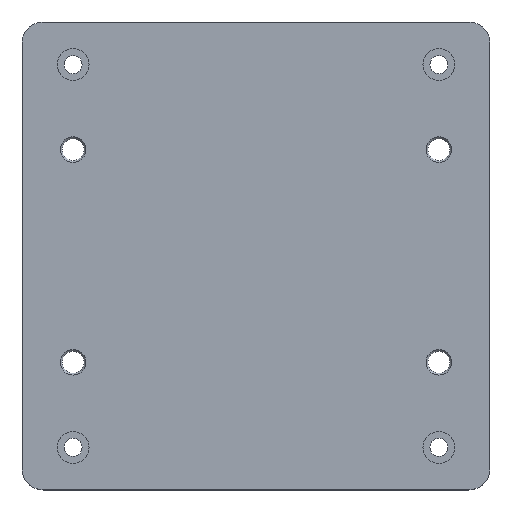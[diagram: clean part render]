
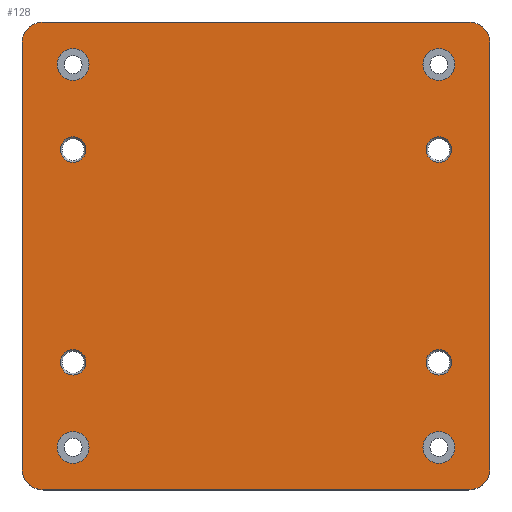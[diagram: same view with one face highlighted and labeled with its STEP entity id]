
A CAD part, top view. The second image highlights one B-rep face of the part: STEP entity #128.
In plain terms, the highlighted planar face has unit normal (0, 0, 1).
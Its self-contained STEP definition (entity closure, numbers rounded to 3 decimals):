
#128=ADVANCED_FACE('',(#204,#205,#206,#207,#208,#209,#210,#211,#212),#162,
 .T.);
#162=PLANE('',#613);
#172=LINE('',#858,#188);
#173=LINE('',#863,#189);
#174=LINE('',#867,#190);
#175=LINE('',#871,#191);
#188=VECTOR('',#693,1.);
#189=VECTOR('',#696,1.);
#190=VECTOR('',#699,1.);
#191=VECTOR('',#702,1.);
#204=FACE_BOUND('',#270,.T.);
#205=FACE_BOUND('',#271,.T.);
#206=FACE_BOUND('',#272,.T.);
#207=FACE_BOUND('',#273,.T.);
#208=FACE_BOUND('',#274,.T.);
#209=FACE_BOUND('',#275,.T.);
#210=FACE_BOUND('',#276,.T.);
#211=FACE_BOUND('',#277,.T.);
#212=FACE_BOUND('',#278,.T.);
#270=EDGE_LOOP('',(#344));
#271=EDGE_LOOP('',(#345));
#272=EDGE_LOOP('',(#346));
#273=EDGE_LOOP('',(#347));
#274=EDGE_LOOP('',(#348));
#275=EDGE_LOOP('',(#349));
#276=EDGE_LOOP('',(#350));
#277=EDGE_LOOP('',(#351));
#278=EDGE_LOOP('',(#352,#353,#354,#355,#356,#357,#358,#359));
#344=ORIENTED_EDGE('',*,*,#504,.T.);
#345=ORIENTED_EDGE('',*,*,#505,.T.);
#346=ORIENTED_EDGE('',*,*,#506,.T.);
#347=ORIENTED_EDGE('',*,*,#507,.T.);
#348=ORIENTED_EDGE('',*,*,#508,.F.);
#349=ORIENTED_EDGE('',*,*,#509,.F.);
#350=ORIENTED_EDGE('',*,*,#510,.F.);
#351=ORIENTED_EDGE('',*,*,#511,.F.);
#352=ORIENTED_EDGE('',*,*,#512,.F.);
#353=ORIENTED_EDGE('',*,*,#513,.T.);
#354=ORIENTED_EDGE('',*,*,#514,.F.);
#355=ORIENTED_EDGE('',*,*,#515,.T.);
#356=ORIENTED_EDGE('',*,*,#516,.F.);
#357=ORIENTED_EDGE('',*,*,#517,.T.);
#358=ORIENTED_EDGE('',*,*,#518,.F.);
#359=ORIENTED_EDGE('',*,*,#519,.T.);
#456=VERTEX_POINT('',#843);
#457=VERTEX_POINT('',#845);
#458=VERTEX_POINT('',#847);
#459=VERTEX_POINT('',#849);
#460=VERTEX_POINT('',#851);
#461=VERTEX_POINT('',#853);
#462=VERTEX_POINT('',#855);
#463=VERTEX_POINT('',#857);
#464=VERTEX_POINT('',#859);
#465=VERTEX_POINT('',#860);
#466=VERTEX_POINT('',#862);
#467=VERTEX_POINT('',#864);
#468=VERTEX_POINT('',#866);
#469=VERTEX_POINT('',#868);
#470=VERTEX_POINT('',#870);
#471=VERTEX_POINT('',#872);
#504=EDGE_CURVE('',#456,#456,#560,.T.);
#505=EDGE_CURVE('',#457,#457,#561,.T.);
#506=EDGE_CURVE('',#458,#458,#562,.T.);
#507=EDGE_CURVE('',#459,#459,#563,.T.);
#508=EDGE_CURVE('',#460,#460,#564,.T.);
#509=EDGE_CURVE('',#461,#461,#565,.T.);
#510=EDGE_CURVE('',#462,#462,#566,.T.);
#511=EDGE_CURVE('',#463,#463,#567,.T.);
#512=EDGE_CURVE('',#464,#465,#172,.T.);
#513=EDGE_CURVE('',#464,#466,#568,.T.);
#514=EDGE_CURVE('',#467,#466,#173,.T.);
#515=EDGE_CURVE('',#467,#468,#569,.T.);
#516=EDGE_CURVE('',#469,#468,#174,.T.);
#517=EDGE_CURVE('',#469,#470,#570,.T.);
#518=EDGE_CURVE('',#471,#470,#175,.T.);
#519=EDGE_CURVE('',#471,#465,#571,.T.);
#560=CIRCLE('',#601,7.5);
#561=CIRCLE('',#602,7.5);
#562=CIRCLE('',#603,7.5);
#563=CIRCLE('',#604,7.5);
#564=CIRCLE('',#605,6.);
#565=CIRCLE('',#606,6.);
#566=CIRCLE('',#607,6.);
#567=CIRCLE('',#608,6.);
#568=CIRCLE('',#609,10.);
#569=CIRCLE('',#610,10.);
#570=CIRCLE('',#611,10.);
#571=CIRCLE('',#612,10.);
#601=AXIS2_PLACEMENT_3D('',#842,#677,#678);
#602=AXIS2_PLACEMENT_3D('',#844,#679,#680);
#603=AXIS2_PLACEMENT_3D('',#846,#681,#682);
#604=AXIS2_PLACEMENT_3D('',#848,#683,#684);
#605=AXIS2_PLACEMENT_3D('',#850,#685,#686);
#606=AXIS2_PLACEMENT_3D('',#852,#687,#688);
#607=AXIS2_PLACEMENT_3D('',#854,#689,#690);
#608=AXIS2_PLACEMENT_3D('',#856,#691,#692);
#609=AXIS2_PLACEMENT_3D('',#861,#694,#695);
#610=AXIS2_PLACEMENT_3D('',#865,#697,#698);
#611=AXIS2_PLACEMENT_3D('',#869,#700,#701);
#612=AXIS2_PLACEMENT_3D('',#873,#703,#704);
#613=AXIS2_PLACEMENT_3D('',#874,#705,#706);
#677=DIRECTION('',(0.,0.,-1.));
#678=DIRECTION('',(0.,1.,0.));
#679=DIRECTION('',(0.,0.,-1.));
#680=DIRECTION('',(0.,1.,0.));
#681=DIRECTION('',(0.,0.,-1.));
#682=DIRECTION('',(0.,1.,0.));
#683=DIRECTION('',(0.,0.,-1.));
#684=DIRECTION('',(0.,1.,0.));
#685=DIRECTION('',(0.,0.,1.));
#686=DIRECTION('',(1.,0.,0.));
#687=DIRECTION('',(0.,0.,1.));
#688=DIRECTION('',(1.,0.,0.));
#689=DIRECTION('',(0.,0.,1.));
#690=DIRECTION('',(1.,0.,0.));
#691=DIRECTION('',(0.,0.,1.));
#692=DIRECTION('',(1.,0.,0.));
#693=DIRECTION('',(-1.,0.,0.));
#694=DIRECTION('',(0.,0.,1.));
#695=DIRECTION('',(1.,0.,0.));
#696=DIRECTION('',(0.,-1.,0.));
#697=DIRECTION('',(0.,0.,1.));
#698=DIRECTION('',(1.,0.,0.));
#699=DIRECTION('',(1.,0.,0.));
#700=DIRECTION('',(0.,0.,1.));
#701=DIRECTION('',(1.,0.,0.));
#702=DIRECTION('',(0.,1.,0.));
#703=DIRECTION('',(0.,0.,1.));
#704=DIRECTION('',(1.,0.,0.));
#705=DIRECTION('',(0.,0.,1.));
#706=DIRECTION('',(1.,0.,0.));
#842=CARTESIAN_POINT('',(196.,200.,15.));
#843=CARTESIAN_POINT('',(196.,207.5,15.));
#844=CARTESIAN_POINT('',(24.,200.,15.));
#845=CARTESIAN_POINT('',(24.,207.5,15.));
#846=CARTESIAN_POINT('',(24.,20.,15.));
#847=CARTESIAN_POINT('',(24.,27.5,15.));
#848=CARTESIAN_POINT('',(196.,20.,15.));
#849=CARTESIAN_POINT('',(196.,27.5,15.));
#850=CARTESIAN_POINT('',(196.,160.,15.));
#851=CARTESIAN_POINT('',(202.,160.,15.));
#852=CARTESIAN_POINT('',(24.,160.,15.));
#853=CARTESIAN_POINT('',(30.,160.,15.));
#854=CARTESIAN_POINT('',(24.,60.,15.));
#855=CARTESIAN_POINT('',(30.,60.,15.));
#856=CARTESIAN_POINT('',(196.,60.,15.));
#857=CARTESIAN_POINT('',(202.,60.,15.));
#858=CARTESIAN_POINT('',(110.,0.,15.));
#859=CARTESIAN_POINT('',(210.,0.,15.));
#860=CARTESIAN_POINT('',(10.,0.,15.));
#861=CARTESIAN_POINT('',(210.,10.,15.));
#862=CARTESIAN_POINT('',(220.,10.,15.));
#863=CARTESIAN_POINT('',(220.,110.,15.));
#864=CARTESIAN_POINT('',(220.,210.,15.));
#865=CARTESIAN_POINT('',(210.,210.,15.));
#866=CARTESIAN_POINT('',(210.,220.,15.));
#867=CARTESIAN_POINT('',(110.,220.,15.));
#868=CARTESIAN_POINT('',(10.,220.,15.));
#869=CARTESIAN_POINT('',(10.,210.,15.));
#870=CARTESIAN_POINT('',(0.,210.,15.));
#871=CARTESIAN_POINT('',(0.,110.,15.));
#872=CARTESIAN_POINT('',(0.,10.,15.));
#873=CARTESIAN_POINT('',(10.,10.,15.));
#874=CARTESIAN_POINT('',(110.,110.,15.));
